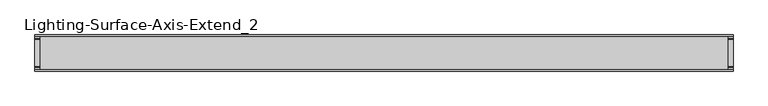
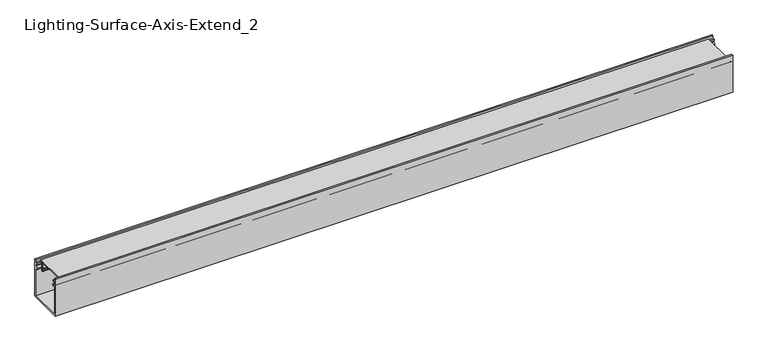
"""IFC4 building model written with IfcOpenShell, lengths in millimetres: light fixture geometry, Lighting-Surface-Axis-Extend_2 : EX2S-900-80-35-SO-4."""

import ifcopenshell
import ifcopenshell.guid

model = None  # the IFC model being written
_history = None  # IfcOwnerHistory: only IFC2X3 demands one
_inside = {}  # id of a spatial element -> (the spatial element, [elements in it])
_under = {}  # id of a project, library or spatial element -> (it, [spatial elements below it])
_declared = {}  # id of a project -> (the project, [libraries it declares])
_typed = {}  # id of a type object -> (the type object, [elements of that type])
_made_of = {}  # id of a material, layer set ... -> (it, [elements and type objects made of it])


def new_model(schema):
    """Start an empty IFC model of exactly this schema.

    Asked for "IFC4X3", IfcOpenShell would pick the latest addendum, in which some entities
    have other attributes; the version numbers below select the first issue.
    IFC2X3 requires an IfcOwnerHistory on every rooted entity: one is made here for all.
    """
    global model, _history
    if schema == "IFC4X3":
        model = ifcopenshell.file(schema_version=(4, 3, 0, 0))
    else:
        model = ifcopenshell.file(schema=schema)
    _inside.clear()
    _under.clear()
    _declared.clear()
    _typed.clear()
    _made_of.clear()
    _history = None
    if model.schema == "IFC2X3":
        org = make("IfcOrganization", Name="unknown")
        user = make(
            "IfcPersonAndOrganization",
            ThePerson=make("IfcPerson", FamilyName="unknown"),
            TheOrganization=org,
        )
        app = make(
            "IfcApplication",
            ApplicationDeveloper=org,
            Version="unknown",
            ApplicationFullName="unknown",
            ApplicationIdentifier="unknown",
        )
        _history = make(
            "IfcOwnerHistory",
            OwningUser=user,
            OwningApplication=app,
            ChangeAction="ADDED",
            CreationDate=0,
        )
    return model


def make(cls, **values):
    """One entity of the class cls with the attributes given. An attribute that is None is left unset."""
    return model.create_entity(
        cls, **{name: value for name, value in values.items() if value is not None}
    )


def rooted(cls, **values):
    """An entity with a GlobalId (a new one), such as an element, a storey or a relation."""
    return make(cls, GlobalId=ifcopenshell.guid.new(), OwnerHistory=_history, **values)


def si_unit(unit_type, name, prefix=None):
    """IfcSIUnit, for example si_unit("LENGTHUNIT", "METRE", prefix="MILLI")."""
    return make("IfcSIUnit", UnitType=unit_type, Prefix=prefix, Name=name)


def assignment(units):
    """IfcUnitAssignment: the units of a project."""
    return None if units is None else make("IfcUnitAssignment", Units=units)


def point(xyz):
    """IfcCartesianPoint."""
    return None if xyz is None else make("IfcCartesianPoint", Coordinates=xyz)


def direction(xyz):
    """IfcDirection."""
    return None if xyz is None else make("IfcDirection", DirectionRatios=xyz)


def frame(location, z_axis=None, x_axis=None):
    """IfcAxis2Placement3D, a coordinate frame: its origin and axes. An axis left out is left unset."""
    return make(
        "IfcAxis2Placement3D",
        Location=point(location),
        Axis=direction(z_axis),
        RefDirection=direction(x_axis),
    )


def frame_2d(location, x_axis=None):
    """IfcAxis2Placement2D, a coordinate frame in the plane: its origin and x axis."""
    return make(
        "IfcAxis2Placement2D", Location=point(location), RefDirection=direction(x_axis)
    )


def origin():
    """The frame at (0, 0, 0) with its axes left unset."""
    return frame((0.0, 0.0, 0.0))


def place(relative_to, where):
    """IfcLocalPlacement: puts the frame where relative to a parent placement (None: the world)."""
    return make(
        "IfcLocalPlacement", PlacementRelTo=relative_to, RelativePlacement=where
    )


def context(
    kind, dimensions, precision=None, world=None, true_north=None, identifier=None
):
    """IfcGeometricRepresentationContext, for example the 3D "Model" context."""
    return make(
        "IfcGeometricRepresentationContext",
        ContextIdentifier=identifier,
        ContextType=kind,
        CoordinateSpaceDimension=dimensions,
        Precision=precision,
        WorldCoordinateSystem=world,
        TrueNorth=true_north,
    )


def project(units=None, contexts=None):
    """IfcProject with its units and contexts."""
    return rooted(
        "IfcProject",
        Name="project",
        RepresentationContexts=contexts,
        UnitsInContext=assignment(units),
    )


def spatial(cls, under=None, at=None, **own):
    """A site, building, storey or space (cls), placed at a placement, below another one or the project."""
    s = rooted(cls, ObjectPlacement=at, **own)
    if under is not None:
        _under.setdefault(under.id(), (under, []))[1].append(s)
    return s


def polyline(points):
    """IfcPolyline through the points."""
    return make("IfcPolyline", Points=[point(p) for p in points])


def circle_curve(where, radius):
    """IfcCircle in the frame where."""
    return make("IfcCircle", Position=where, Radius=radius)


def trimmed(basis, trim1, trim2, sense, master):
    """IfcTrimmedCurve: the piece of a basis curve between two trims."""
    return make(
        "IfcTrimmedCurve",
        BasisCurve=basis,
        Trim1=trim1,
        Trim2=trim2,
        SenseAgreement=sense,
        MasterRepresentation=master,
    )


def segment(curve, same_sense, transition):
    """IfcCompositeCurveSegment."""
    return make(
        "IfcCompositeCurveSegment",
        Transition=transition,
        SameSense=same_sense,
        ParentCurve=curve,
    )


def composite_curve(segments, self_intersect=None):
    """IfcCompositeCurve: segments joined end to end."""
    return make("IfcCompositeCurve", Segments=segments, SelfIntersect=self_intersect)


def outline(outer, holes=None, kind="AREA"):
    """IfcArbitraryClosedProfileDef: a profile drawn as a closed curve; with holes, ...WithVoids."""
    if holes is None:
        return make("IfcArbitraryClosedProfileDef", ProfileType=kind, OuterCurve=outer)
    return make(
        "IfcArbitraryProfileDefWithVoids",
        ProfileType=kind,
        OuterCurve=outer,
        InnerCurves=holes,
    )


def extrude(swept, where, along, depth):
    """IfcExtrudedAreaSolid: the profile swept, set in the frame where, extruded along a direction by depth."""
    return make(
        "IfcExtrudedAreaSolid",
        SweptArea=swept,
        Position=where,
        ExtrudedDirection=direction(along),
        Depth=depth,
    )


def shape(context_of_items, identifier, shape_type, items):
    """IfcShapeRepresentation: the items that make up one representation, for example the "Body"."""
    return make(
        "IfcShapeRepresentation",
        ContextOfItems=context_of_items,
        RepresentationIdentifier=identifier,
        RepresentationType=shape_type,
        Items=items,
    )


def source(mapping_origin, context_of_items, identifier, shape_type, items):
    """IfcRepresentationMap: a shape defined once, which mapped items show again and again."""
    return make(
        "IfcRepresentationMap",
        MappingOrigin=mapping_origin,
        MappedRepresentation=shape(context_of_items, identifier, shape_type, items),
    )


def transform(
    local_origin,
    x_axis=None,
    y_axis=None,
    z_axis=None,
    scale=None,
    scale2=None,
    scale3=None,
    uniform=True,
):
    """IfcCartesianTransformationOperator3D, or its non-uniform kind. x_axis, y_axis, z_axis: its Axis1, 2, 3."""
    if uniform:
        return make(
            "IfcCartesianTransformationOperator3D",
            Axis1=direction(x_axis),
            Axis2=direction(y_axis),
            LocalOrigin=point(local_origin),
            Scale=scale,
            Axis3=direction(z_axis),
        )
    return make(
        "IfcCartesianTransformationOperator3DnonUniform",
        Axis1=direction(x_axis),
        Axis2=direction(y_axis),
        LocalOrigin=point(local_origin),
        Scale=scale,
        Axis3=direction(z_axis),
        Scale2=scale2,
        Scale3=scale3,
    )


def mapped(mapping_source, mapping_target):
    """IfcMappedItem: shows the shape of a source again, moved by a transform."""
    return make(
        "IfcMappedItem", MappingSource=mapping_source, MappingTarget=mapping_target
    )


def made_of(thing, what):
    """Note that an element or type object is made of a material, layer set ...; save() writes the relation."""
    if what is not None:
        _made_of.setdefault(what.id(), (what, []))[1].append(thing)
    return thing


def element(
    cls,
    number,
    at=None,
    inside=None,
    cuts=None,
    type_object=None,
    material=None,
    context=None,
    identifier="Body",
    shape_type=None,
    held_by="IfcProductDefinitionShape",
    body=None,
    shapes=None,
    **own,
):
    """One element of the class cls, such as IfcWall. Its Tag is "e" and its number.

    at: its placement. inside: the storey or other place that contains it. cuts: it is an
    opening in that element (IfcRelVoidsElement). A single representation is given by context,
    identifier, shape_type and body (its items); several are given by shapes. held_by: the class
    of the entity that holds the representations. save() writes the other relations.
    """
    e = rooted(cls, Tag="e%d" % number, ObjectPlacement=at, **own)
    if body is not None:
        shapes = [shape(context, identifier, shape_type, body)]
    if shapes is not None:
        e.Representation = make(held_by, Representations=shapes)
    if inside is not None:
        _inside.setdefault(inside.id(), (inside, []))[1].append(e)
    if cuts is not None:
        rooted(
            "IfcRelVoidsElement", RelatingBuildingElement=cuts, RelatedOpeningElement=e
        )
    if type_object is not None:
        _typed.setdefault(type_object.id(), (type_object, []))[1].append(e)
    return made_of(e, material)


def aggregate(whole, parts):
    """IfcRelAggregates: a whole, such as a stair, and the parts it consists of."""
    return rooted("IfcRelAggregates", RelatingObject=whole, RelatedObjects=parts)


def save(model, path):
    """Write the relations noted so far, then the file.

    IfcRelAggregates (storeys below a building ...), IfcRelContainedInSpatialStructure (elements
    in a storey), IfcRelDefinesByType, IfcRelAssociatesMaterial and IfcRelDeclares: one each for
    every whole, place, type object, material and project.
    """
    for whole, parts in _under.values():
        aggregate(whole, parts)
    for where, things in _inside.values():
        rooted(
            "IfcRelContainedInSpatialStructure",
            RelatedElements=things,
            RelatingStructure=where,
        )
    for kind, things in _typed.values():
        rooted("IfcRelDefinesByType", RelatedObjects=things, RelatingType=kind)
    for what, things in _made_of.values():
        rooted("IfcRelAssociatesMaterial", RelatedObjects=things, RelatingMaterial=what)
    for by, libraries in _declared.values():
        rooted("IfcRelDeclares", RelatingContext=by, RelatedDefinitions=libraries)
    model.write(path)


def lighting_surface_axis_extend_2_cf736f56(model_context):
    return source(origin(), model_context, "Body", "SweptSolid", [
        extrude(outline(composite_curve([segment(polyline([(-24.1727262, 66.5479991), (-24.5114181, 60.0853737)]), True, "CONTINUOUS"), segment(trimmed(circle_curve(frame_2d((-27.2542, 57.0865)), 4.064), [point((-24.5114181, 60.0853737))], [point((-25.3818814, 53.4794903))], False, "CARTESIAN"), True, "CONTINUOUS"), segment(trimmed(circle_curve(frame_2d((-22.149344, 54.2683457)), 3.3274001), [point((-25.3818814, 53.4794903))], [point((-24.5665956, 51.9817575))], True, "CARTESIAN"), True, "CONTINUOUS"), segment(trimmed(circle_curve(frame_2d((-17.1303177, 59.0160708)), 10.2362001), [point((-24.5665956, 51.9817575))], [point((-23.2119066, 50.7823555))], True, "CARTESIAN"), True, "CONTINUOUS"), segment(trimmed(circle_curve(frame_2d((-23.7023573, 50.1183462)), 0.8255), [point((-23.2119066, 50.7823555))], [point((-24.192808, 49.4543369))], False, "CARTESIAN"), True, "CONTINUOUS"), segment(trimmed(circle_curve(frame_2d((-17.1303169, 59.0160717)), 11.8872013), [point((-24.192808, 49.4543369))], [point((-25.7659952, 50.8471908))], False, "CARTESIAN"), True, "CONTINUOUS"), segment(trimmed(circle_curve(frame_2d((-22.149344, 54.2683457)), 4.9784001), [point((-25.7659952, 50.8471908))], [point((-27.1108807, 54.67776))], False, "CARTESIAN"), True, "CONTINUOUS"), segment(trimmed(circle_curve(frame_2d((-27.2542, 57.0865)), 2.413), [point((-27.1108807, 54.67776))], [point((-25.4753941, 58.7169658))], True, "CARTESIAN"), True, "CONTINUOUS"), segment(trimmed(circle_curve(frame_2d((-23.6029669, 60.4332456)), 2.54), [point((-25.4753941, 58.7169658))], [point((-26.1394859, 60.5661789))], False, "CARTESIAN"), True, "CONTINUOUS"), segment(polyline([(-26.1394859, 60.5661789), (-25.825992, 66.5479991), (-28.829, 66.5479991), (-28.829, 68.453), (28.829, 68.453), (28.829, 66.5479991), (25.825992, 66.5479991), (26.1394859, 60.5661789)]), True, "CONTINUOUS"), segment(trimmed(circle_curve(frame_2d((23.6029669, 60.4332456)), 2.54), [point((26.1394859, 60.5661789))], [point((25.4753941, 58.7169658))], False, "CARTESIAN"), True, "CONTINUOUS"), segment(trimmed(circle_curve(frame_2d((27.2542, 57.0865)), 2.413), [point((25.4753941, 58.7169658))], [point((27.1108807, 54.67776))], True, "CARTESIAN"), True, "CONTINUOUS"), segment(trimmed(circle_curve(frame_2d((22.149344, 54.2683457)), 4.9784001), [point((27.1108807, 54.67776))], [point((25.7659952, 50.8471908))], False, "CARTESIAN"), True, "CONTINUOUS"), segment(trimmed(circle_curve(frame_2d((17.1303169, 59.0160717)), 11.8872013), [point((25.7659952, 50.8471908))], [point((24.192808, 49.4543369))], False, "CARTESIAN"), True, "CONTINUOUS"), segment(trimmed(circle_curve(frame_2d((23.7023573, 50.1183462)), 0.8255), [point((24.192808, 49.4543369))], [point((23.2119066, 50.7823555))], False, "CARTESIAN"), True, "CONTINUOUS"), segment(trimmed(circle_curve(frame_2d((17.1303177, 59.0160708)), 10.2362001), [point((23.2119066, 50.7823555))], [point((24.5665956, 51.9817575))], True, "CARTESIAN"), True, "CONTINUOUS"), segment(trimmed(circle_curve(frame_2d((22.149344, 54.2683457)), 3.3274001), [point((24.5665956, 51.9817575))], [point((25.3818814, 53.4794903))], True, "CARTESIAN"), True, "CONTINUOUS"), segment(trimmed(circle_curve(frame_2d((27.2542, 57.0865)), 4.064), [point((25.3818814, 53.4794903))], [point((24.5114181, 60.0853737))], False, "CARTESIAN"), True, "CONTINUOUS"), segment(polyline([(24.5114181, 60.0853737), (24.1727262, 66.5479991), (-24.1727262, 66.5479991)]), True, "CONTINUOUS")], self_intersect=False)), frame((-609.6, 0.0, 0.0), z_axis=(1.0, 0.0, 0.0), x_axis=(0.0, 1.0, 0.0)), (0.0, 0.0, 1.0), 1219.2),
        extrude(outline(composite_curve([segment(polyline([(-29.972, 56.5277), (-29.972, 2.032), (29.972, 2.032), (29.972, 56.5277), (28.1325797, 56.5277)]), True, "CONTINUOUS"), segment(trimmed(circle_curve(frame_2d((26.6262297, 56.5277)), 1.5063501), [point((28.1325797, 56.5277))], [point((25.8730546, 55.2231626))], False, "CARTESIAN"), True, "CONTINUOUS"), segment(trimmed(circle_curve(frame_2d((27.0642121, 57.2863079)), 2.382315), [point((25.8730546, 55.2231626))], [point((24.6896516, 57.4783682))], False, "CARTESIAN"), True, "CONTINUOUS"), segment(polyline([(24.6896516, 57.4783682), (28.067, 60.3123), (28.067, 58.5597), (29.972, 58.5597), (29.972, 65.0875), (28.067, 65.0875), (28.067, 63.5635), (26.416, 63.6500252), (26.416, 66.3575), (29.972, 66.3575), (29.972, 71.4375), (32.004, 71.4375), (32.004, 0.0), (-32.004, 0.0), (-32.004, 71.4375), (-29.972, 71.4375), (-29.972, 66.3575), (-26.416, 66.3575), (-26.416, 63.6500252), (-28.067, 63.5635), (-28.067, 65.0875), (-29.972, 65.0875), (-29.972, 58.5597), (-28.067, 58.5597), (-28.067, 60.3123), (-24.6896516, 57.4783682)]), True, "CONTINUOUS"), segment(trimmed(circle_curve(frame_2d((-27.0642121, 57.2863079)), 2.382315), [point((-24.6896516, 57.4783682))], [point((-25.8730546, 55.2231626))], False, "CARTESIAN"), True, "CONTINUOUS"), segment(trimmed(circle_curve(frame_2d((-26.6262297, 56.5277)), 1.5063501), [point((-25.8730546, 55.2231626))], [point((-28.1325797, 56.5277))], False, "CARTESIAN"), True, "CONTINUOUS"), segment(polyline([(-28.1325797, 56.5277), (-29.972, 56.5277)]), True, "CONTINUOUS")], self_intersect=False)), frame((-618.7567, 0.0, 0.0), z_axis=(1.0, 0.0, 0.0), x_axis=(0.0, 1.0, 0.0)), (0.0, 0.0, 1.0), 1237.5134),
    ])


if __name__ == "__main__":
    model = new_model("IFC4")
    model_context = context("Model", 3, world=origin())
    ifc_project = project(units=[si_unit("LENGTHUNIT", "METRE", prefix="MILLI")], contexts=[model_context])
    site = spatial("IfcSite", under=ifc_project)
    building = spatial("IfcBuilding", under=site)
    placement = place(None, origin())
    lighting_surface_axis_extend_2_shape = lighting_surface_axis_extend_2_cf736f56(model_context)
    element("IfcLightFixture", 1, ObjectType="Lighting-Surface-Axis-Extend_2 : EX2S-900-80-35-SO-4", at=placement, inside=building, context=model_context, shape_type="MappedRepresentation", body=[
        mapped(lighting_surface_axis_extend_2_shape, transform((0.0, 0.0, 0.0), x_axis=(1.0, 0.0, 0.0), y_axis=(0.0, 1.0, 0.0), z_axis=(0.0, 0.0, 1.0))),
    ])
    save(model, "model.ifc")
